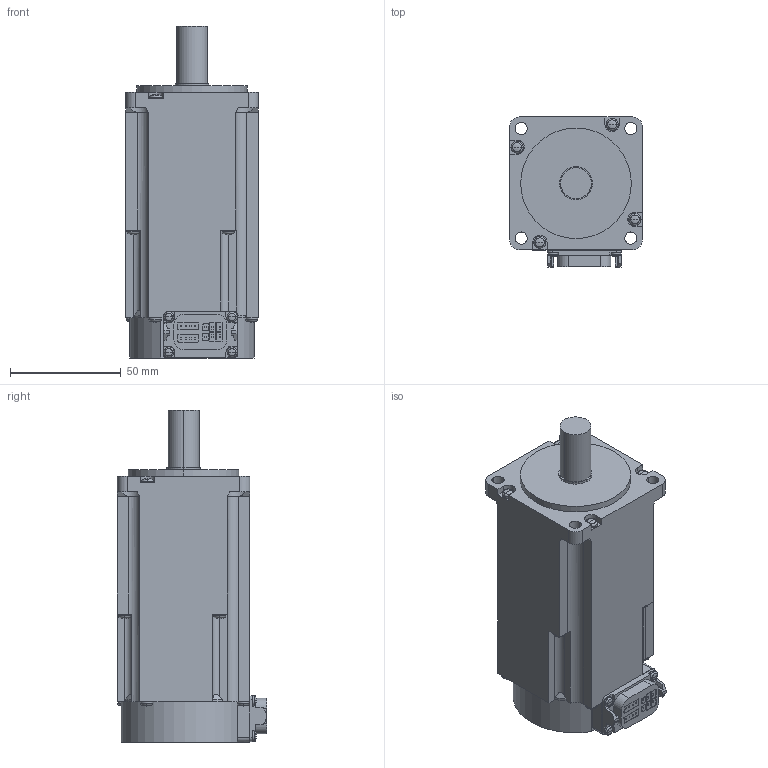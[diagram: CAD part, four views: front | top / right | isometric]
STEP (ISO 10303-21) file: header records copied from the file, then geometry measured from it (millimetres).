
FILE_DESCRIPTION((''),'2;1');
FILE_NAME('HK-KT43WB_-_ASM','2019-01-16T',('XE90682'),(''),'CREO PARAMETRIC BY PTC INC, 2016380','CREO PARAMETRIC BY PTC INC, 2016380','');
FILE_SCHEMA(('CONFIG_CONTROL_DESIGN'));
Length unit declared in the file: millimetre
Products named in the file (1): HK-KT43WB_-_ASM
Bounding box: 60 x 67.65 x 150.1 mm (x, y, z)
Volume: 383346.1 mm3; surface area: 37358.6 mm2
Topology: 1 solids, 1 shells, 401 faces, 1042 edges, 654 vertices
Faces by surface type: plane 221, cylinder 113, torus 32, sphere 32, cone 3
Entity records: 12246 total; most frequent: CARTESIAN_POINT 2286, DIRECTION 2120, ORIENTED_EDGE 2020, EDGE_CURVE 1010, AXIS2_PLACEMENT_3D 726, VECTOR 668, LINE 668, VERTEX_POINT 654
